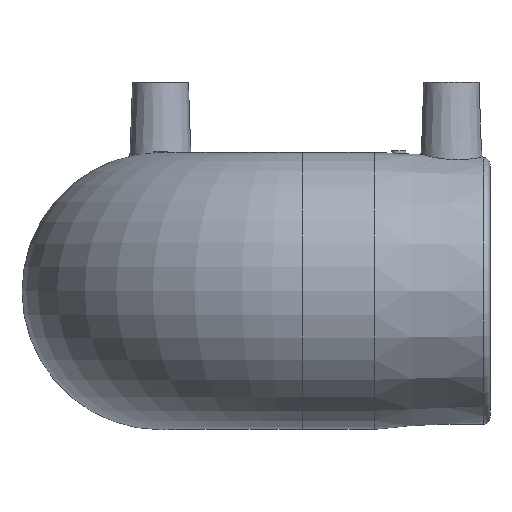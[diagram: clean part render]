
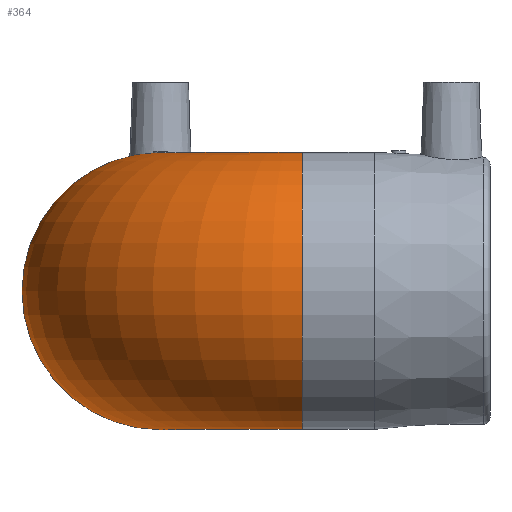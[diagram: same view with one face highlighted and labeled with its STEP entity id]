
A CAD part, top view. The second image highlights one B-rep face of the part: STEP entity #364.
In plain terms, the highlighted toroidal (fillet/blend) face has major radius 40.5 mm and minor radius 39.5 mm.
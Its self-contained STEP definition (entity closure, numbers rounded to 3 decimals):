
#20=TOROIDAL_SURFACE('',#422,40.5,39.5);
#55=CIRCLE('',#411,39.5);
#58=CIRCLE('',#416,39.5);
#99=ORIENTED_EDGE('',*,*,#159,.F.);
#100=ORIENTED_EDGE('',*,*,#162,.T.);
#159=EDGE_CURVE('',#196,#196,#55,.F.);
#162=EDGE_CURVE('',#199,#199,#58,.F.);
#196=VERTEX_POINT('',#662);
#199=VERTEX_POINT('',#670);
#248=EDGE_LOOP('',(#99));
#249=EDGE_LOOP('',(#100));
#309=FACE_BOUND('',#248,.T.);
#310=FACE_BOUND('',#249,.T.);
#364=ADVANCED_FACE('',(#309,#310),#20,.T.);
#411=AXIS2_PLACEMENT_3D('',#661,#482,#483);
#416=AXIS2_PLACEMENT_3D('',#669,#492,#493);
#422=AXIS2_PLACEMENT_3D('',#702,#504,#505);
#482=DIRECTION('',(-1.,0.,0.));
#483=DIRECTION('',(0.,0.,-1.));
#492=DIRECTION('',(0.,0.,-1.));
#493=DIRECTION('',(1.,0.,0.));
#504=DIRECTION('',(0.,1.,0.));
#505=DIRECTION('',(0.,0.,1.));
#661=CARTESIAN_POINT('',(40.5,0.,94.));
#662=CARTESIAN_POINT('',(40.5,0.,54.5));
#669=CARTESIAN_POINT('',(0.,0.,53.5));
#670=CARTESIAN_POINT('',(39.5,0.,53.5));
#702=CARTESIAN_POINT('',(40.5,0.,53.5));
